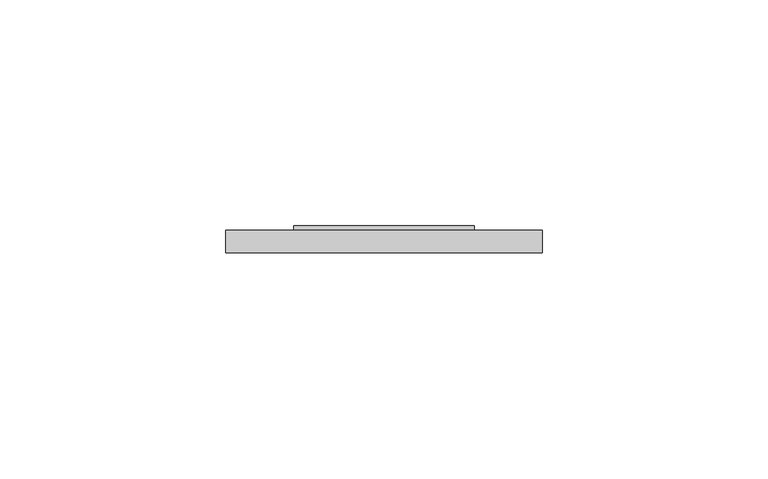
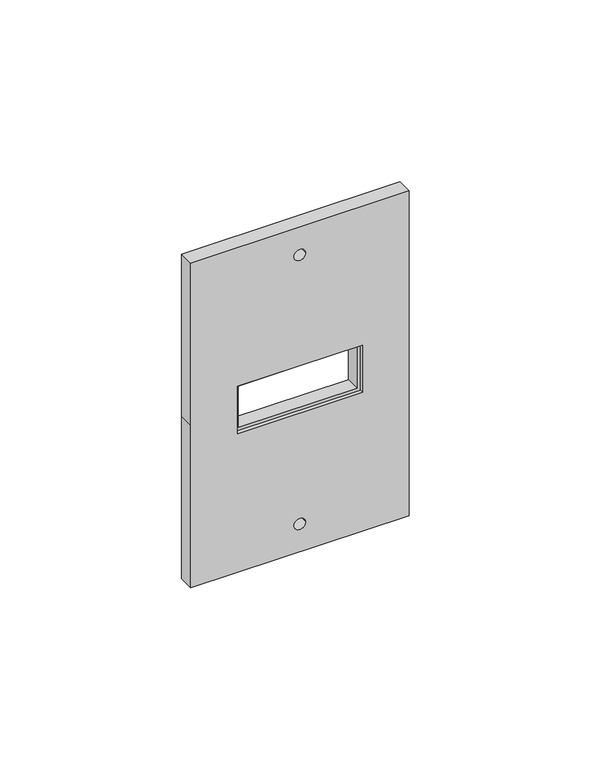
"""IFC4 building model written with IfcOpenShell, lengths in millimetres: light fixture geometry, Apagador escalera simple : Apagador."""

from ifc_helpers import new_model, si_unit, point, frame, frame_2d, origin, place, context, project, spatial, polyline, circle_curve, trimmed, segment, composite_curve, outline, extrude, source, transform, mapped, element, save


def light_fixture_2b11a0f5(model_context):
    return source(origin(), model_context, "Body", "SweptSolid", [
        extrude(outline(polyline([(1092.0, 145.0), (1108.0, 145.0), (1108.0, 105.0), (1092.0, 105.0), (1092.0, 145.0)]), holes=[polyline([(1107.0, 106.0), (1107.0, 144.0), (1093.0, 144.0), (1093.0, 106.0), (1107.0, 106.0)])]), frame((0.0, 76.2025607, 0.0), z_axis=(0.0, 1.0, 0.0), x_axis=(0.0, 0.0, 1.0)), (0.0, 0.0, 1.0), 4.7658788),
        extrude(outline(polyline([(1155.0, 160.0), (1155.0, 90.0), (1100.0, 90.0), (1045.0, 90.0), (1045.0, 160.0), (1155.0, 160.0)]), holes=[composite_curve([segment(trimmed(circle_curve(frame_2d((1145.5814465, 125.0)), 1.8475425), [point((1145.5814465, 123.1524575))], [point((1145.5814465, 126.8475425))], True, "CARTESIAN"), True, "CONTINUOUS"), segment(trimmed(circle_curve(frame_2d((1145.5814465, 125.0)), 1.8475425), [point((1145.5814465, 126.8475425))], [point((1145.5814465, 123.1524575))], True, "CARTESIAN"), True, "CONTINUOUS")], self_intersect=False), composite_curve([segment(trimmed(circle_curve(frame_2d((1054.4185535, 125.0)), 1.8475425), [point((1054.4185535, 123.1524575))], [point((1054.4185535, 126.8475425))], True, "CARTESIAN"), True, "CONTINUOUS"), segment(trimmed(circle_curve(frame_2d((1054.4185535, 125.0)), 1.8475425), [point((1054.4185535, 126.8475425))], [point((1054.4185535, 123.1524575))], True, "CARTESIAN"), True, "CONTINUOUS")], self_intersect=False), polyline([(1108.0, 105.0), (1108.0, 145.0), (1092.0, 145.0), (1092.0, 105.0), (1108.0, 105.0)])]), frame((0.0, 75.0, 0.0), z_axis=(0.0, 1.0, 0.0), x_axis=(0.0, 0.0, 1.0)), (0.0, 0.0, 1.0), 5.0),
    ])


if __name__ == "__main__":
    model = new_model("IFC4")
    model_context = context("Model", 3, world=origin())
    ifc_project = project(units=[si_unit("LENGTHUNIT", "METRE", prefix="MILLI")], contexts=[model_context])
    site = spatial("IfcSite", under=ifc_project)
    building = spatial("IfcBuilding", under=site)
    placement = place(None, origin())
    light_fixture_shape = light_fixture_2b11a0f5(model_context)
    element("IfcLightFixture", 1, ObjectType="Apagador escalera simple : Apagador", at=placement, inside=building, context=model_context, shape_type="MappedRepresentation", body=[
        mapped(light_fixture_shape, transform((0.0, 0.0, 0.0), x_axis=(1.0, 0.0, 0.0), y_axis=(0.0, 1.0, 0.0), z_axis=(0.0, 0.0, 1.0))),
    ])
    save(model, "model.ifc")
